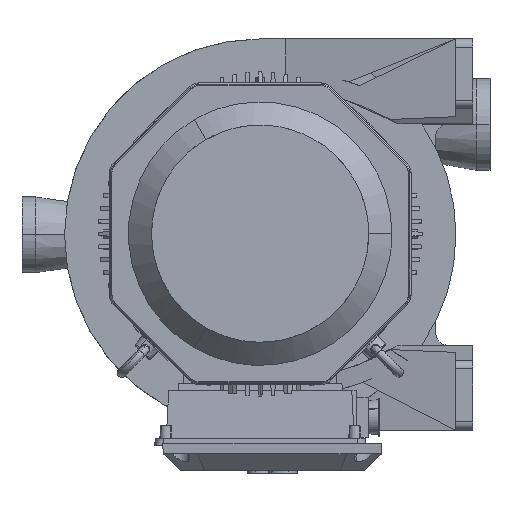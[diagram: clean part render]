
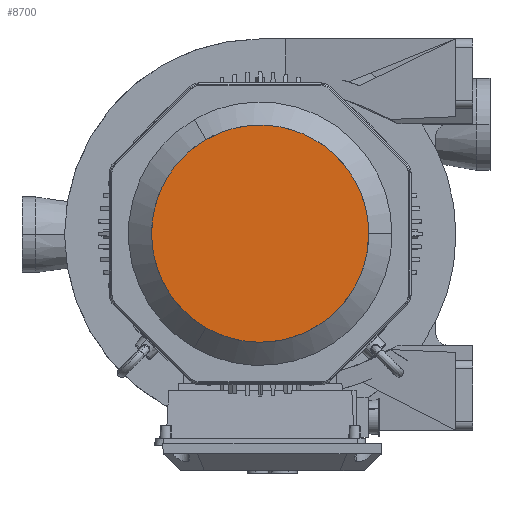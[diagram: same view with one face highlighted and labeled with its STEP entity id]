
A CAD part, top view. The second image highlights one B-rep face of the part: STEP entity #8700.
In plain terms, the highlighted planar face has unit normal (0, 0, 1).
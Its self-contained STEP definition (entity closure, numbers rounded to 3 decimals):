
#8615=CARTESIAN_POINT('',(-140.373,-138.844,724.254));
#8616=DIRECTION('',(0.0,0.0,1.0));
#8617=DIRECTION('',(-1.0,0.0,0.0));
#8618=AXIS2_PLACEMENT_3D('',#8615,#8616,#8617);
#8619=PLANE('',#8618);
#8620=CARTESIAN_POINT('',(-63.855,110.444,724.254));
#8621=VERTEX_POINT('',#8620);
#8622=CARTESIAN_POINT('',(127.44,0.,724.254));
#8623=VERTEX_POINT('',#8622);
#8624=CARTESIAN_POINT('',(-63.855,110.444,724.254));
#8625=CARTESIAN_POINT('',(-57.081,114.355,724.254));
#8626=CARTESIAN_POINT('',(-49.767,117.886,724.254));
#8627=CARTESIAN_POINT('',(-41.935,120.924,724.254));
#8628=CARTESIAN_POINT('',(-24.653,125.986,724.254));
#8629=CARTESIAN_POINT('',(-5.811,127.98,724.254));
#8630=CARTESIAN_POINT('',(4.284,128.065,724.254));
#8631=CARTESIAN_POINT('',(29.077,125.754,724.254));
#8632=CARTESIAN_POINT('',(53.38,117.261,724.254));
#8633=CARTESIAN_POINT('',(66.914,110.098,724.254));
#8634=CARTESIAN_POINT('',(88.002,94.459,724.254));
#8635=CARTESIAN_POINT('',(104.137,74.649,724.254));
#8636=CARTESIAN_POINT('',(109.926,65.756,724.254));
#8637=CARTESIAN_POINT('',(119.051,48.008,724.254));
#8638=CARTESIAN_POINT('',(124.409,29.774,724.254));
#8639=CARTESIAN_POINT('',(126.136,21.065,724.254));
#8640=CARTESIAN_POINT('',(127.191,11.645,724.254));
#8641=CARTESIAN_POINT('',(127.419,2.557,724.254));
#8642=CARTESIAN_POINT('',(127.433,1.701,724.254));
#8643=CARTESIAN_POINT('',(127.44,0.849,724.254));
#8644=CARTESIAN_POINT('',(127.44,0.,724.254));
#8645=B_SPLINE_CURVE_WITH_KNOTS('',5,(#8624,#8625,#8626,#8627,#8628,#8629,#8630,#8631,#8632,#8633,#8634,#8635,#8636,#8637,#8638,#8639,#8640,#8641,#8642,#8643,#8644),.UNSPECIFIED.,.F.,.U.,(6,3,3,3,3,3,6),(0.0,87.455,182.3,317.715,416.191,507.181,516.673),.UNSPECIFIED.);
#8646=EDGE_CURVE('',#8621,#8623,#8645,.T.);
#8647=ORIENTED_EDGE('',*,*,#8646,.F.);
#8648=CARTESIAN_POINT('',(-63.855,-110.444,724.254));
#8649=VERTEX_POINT('',#8648);
#8650=CARTESIAN_POINT('',(-63.855,-110.444,724.254));
#8651=CARTESIAN_POINT('',(-70.629,-106.533,724.254));
#8652=CARTESIAN_POINT('',(-77.343,-101.964,724.254));
#8653=CARTESIAN_POINT('',(-83.89,-96.701,724.254));
#8654=CARTESIAN_POINT('',(-96.915,-84.265,724.254));
#8655=CARTESIAN_POINT('',(-108.063,-68.945,724.254));
#8656=CARTESIAN_POINT('',(-113.185,-60.244,724.254));
#8657=CARTESIAN_POINT('',(-123.579,-37.618,724.254));
#8658=CARTESIAN_POINT('',(-128.376,-12.324,724.254));
#8659=CARTESIAN_POINT('',(-128.939,2.978,724.254));
#8660=CARTESIAN_POINT('',(-125.939,29.06,724.254));
#8661=CARTESIAN_POINT('',(-116.851,52.939,724.254));
#8662=CARTESIAN_POINT('',(-112.044,62.398,724.254));
#8663=CARTESIAN_POINT('',(-101.236,79.175,724.254));
#8664=CARTESIAN_POINT('',(-88.124,92.932,724.254));
#8665=CARTESIAN_POINT('',(-81.445,98.782,724.254));
#8666=CARTESIAN_POINT('',(-73.815,104.406,724.254));
#8667=CARTESIAN_POINT('',(-66.058,109.147,724.254));
#8668=CARTESIAN_POINT('',(-65.325,109.588,724.254));
#8669=CARTESIAN_POINT('',(-64.59,110.02,724.254));
#8670=CARTESIAN_POINT('',(-63.855,110.444,724.254));
#8671=B_SPLINE_CURVE_WITH_KNOTS('',5,(#8650,#8651,#8652,#8653,#8654,#8655,#8656,#8657,#8658,#8659,#8660,#8661,#8662,#8663,#8664,#8665,#8666,#8667,#8668,#8669,#8670),.UNSPECIFIED.,.F.,.U.,(6,3,3,3,3,3,6),(0.0,87.455,182.3,317.715,416.191,507.181,516.673),.UNSPECIFIED.);
#8672=EDGE_CURVE('',#8649,#8621,#8671,.T.);
#8673=ORIENTED_EDGE('',*,*,#8672,.F.);
#8674=CARTESIAN_POINT('',(127.44,0.,724.254));
#8675=CARTESIAN_POINT('',(127.44,-7.822,724.254));
#8676=CARTESIAN_POINT('',(126.84,-15.921,724.254));
#8677=CARTESIAN_POINT('',(125.556,-24.223,724.254));
#8678=CARTESIAN_POINT('',(121.299,-41.721,724.254));
#8679=CARTESIAN_POINT('',(113.605,-59.035,724.254));
#8680=CARTESIAN_POINT('',(108.631,-67.821,724.254));
#8681=CARTESIAN_POINT('',(94.233,-88.136,724.254));
#8682=CARTESIAN_POINT('',(74.726,-104.937,724.254));
#8683=CARTESIAN_POINT('',(61.756,-113.076,724.254));
#8684=CARTESIAN_POINT('',(37.668,-123.519,724.254));
#8685=CARTESIAN_POINT('',(12.445,-127.588,724.254));
#8686=CARTESIAN_POINT('',(1.849,-128.155,724.254));
#8687=CARTESIAN_POINT('',(-18.084,-127.183,724.254));
#8688=CARTESIAN_POINT('',(-36.554,-122.706,724.254));
#8689=CARTESIAN_POINT('',(-44.96,-119.847,724.254));
#8690=CARTESIAN_POINT('',(-53.646,-116.051,724.254));
#8691=CARTESIAN_POINT('',(-61.63,-111.704,724.254));
#8692=CARTESIAN_POINT('',(-62.378,-111.289,724.254));
#8693=CARTESIAN_POINT('',(-63.12,-110.869,724.254));
#8694=CARTESIAN_POINT('',(-63.855,-110.444,724.254));
#8695=B_SPLINE_CURVE_WITH_KNOTS('',5,(#8674,#8675,#8676,#8677,#8678,#8679,#8680,#8681,#8682,#8683,#8684,#8685,#8686,#8687,#8688,#8689,#8690,#8691,#8692,#8693,#8694),.UNSPECIFIED.,.F.,.U.,(6,3,3,3,3,3,6),(0.0,87.455,182.3,317.715,416.191,507.181,516.673),.UNSPECIFIED.);
#8696=EDGE_CURVE('',#8623,#8649,#8695,.T.);
#8697=ORIENTED_EDGE('',*,*,#8696,.F.);
#8698=EDGE_LOOP('',(#8647,#8673,#8697));
#8699=FACE_OUTER_BOUND('',#8698,.T.);
#8700=ADVANCED_FACE('',(#8699),#8619,.T.);
